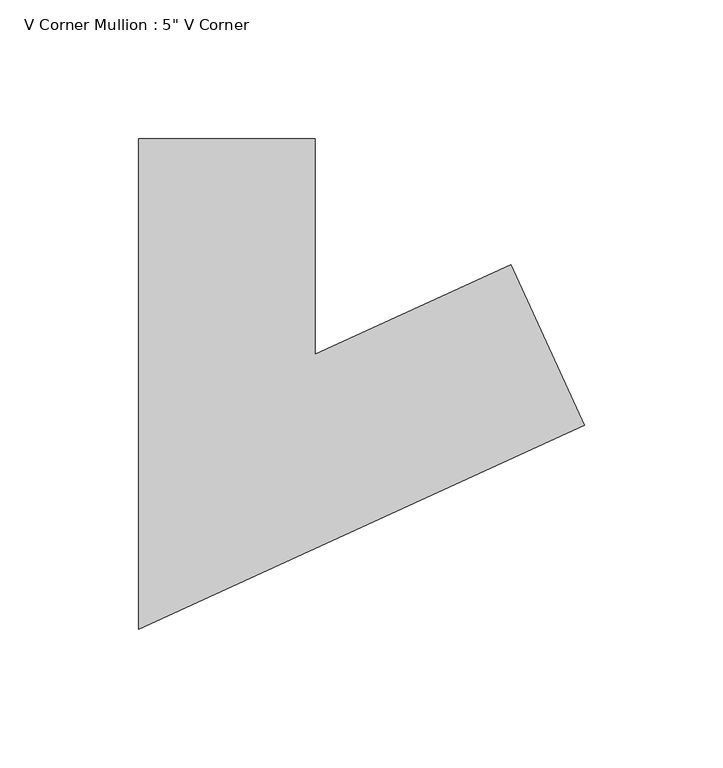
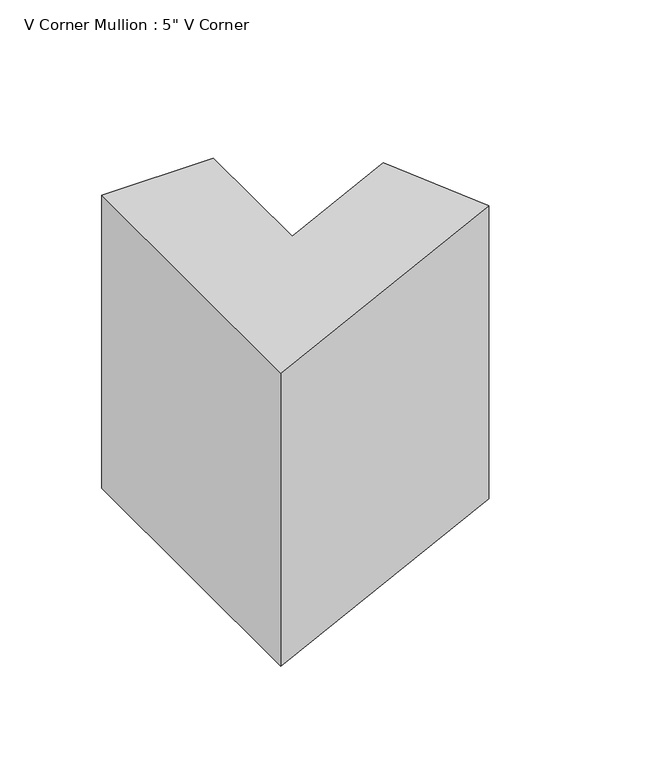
"""IFC4 building model written with IfcOpenShell, lengths in millimetres: member geometry."""

from ifc_helpers import new_model, si_unit, frame, origin, place, context, project, spatial, polyline, outline, extrude, source, transform, mapped, element, save


def member_a61118c8(model_context):
    return source(origin(), model_context, "Body", "SweptSolid", [
        extrude(outline(polyline([(87.9205542, -39.5195451), (-72.5228811, -112.9476953), (-72.5228811, 63.5), (-9.0228811, 63.5), (-9.0228811, -14.0523047), (61.49523, 18.2208415), (87.9205542, -39.5195451)])), frame((0.0, 0.0, -176.1415705), z_axis=(0.0, 0.0, 1.0), x_axis=(1.0, 0.0, 0.0)), (0.0, 0.0, 1.0), 176.1415705),
    ])


if __name__ == "__main__":
    model = new_model("IFC4")
    model_context = context("Model", 3, world=origin())
    ifc_project = project(units=[si_unit("LENGTHUNIT", "METRE", prefix="MILLI")], contexts=[model_context])
    site = spatial("IfcSite", under=ifc_project)
    building = spatial("IfcBuilding", under=site)
    placement = place(None, origin())
    member_shape = member_a61118c8(model_context)
    element("IfcMember", 1, ObjectType="V Corner Mullion : 5\" V Corner", at=placement, inside=building, context=model_context, shape_type="MappedRepresentation", body=[
        mapped(member_shape, transform((0.0, 0.0, 0.0), x_axis=(1.0, 0.0, 0.0), y_axis=(0.0, 1.0, 0.0), z_axis=(0.0, 0.0, 1.0))),
    ])
    save(model, "model.ifc")
